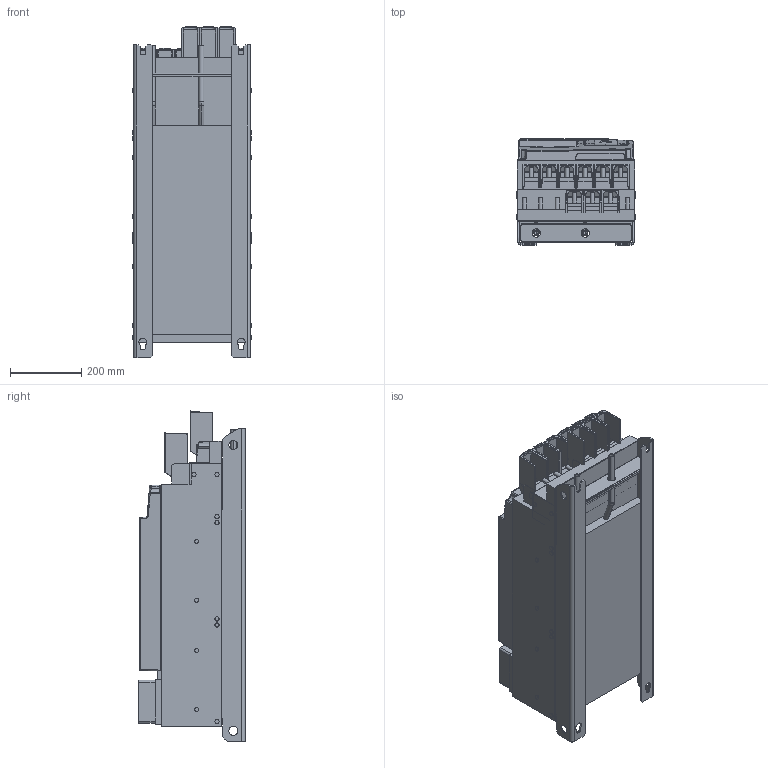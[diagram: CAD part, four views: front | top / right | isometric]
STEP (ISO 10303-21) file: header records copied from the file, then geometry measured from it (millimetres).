
FILE_DESCRIPTION (( 'STEP AP214' ), '1' );
FILE_NAME ('F6-8TW0-P150.STEP', '2021-03-02T07:49:46', ( '' ), ( '' ), 'SwSTEP 2.0', 'SolidWorks 2019', '' );
FILE_SCHEMA (( 'AUTOMOTIVE_DESIGN' ));
Length unit declared in the file: millimetre
Products named in the file (13): 10038044_000_Kundemodell; F6-8TW0-P150; 10040552_000_Kundenmodell; 10047771_000_Kundenmodell; 10059762_000_Kundenmodell mit Geberbuchsen; 10063199_000; 10059765_000; 10063887_000_F6-8 Leistungsteil TW0 (Kundenmodell); 10063898_000; 10063180_000; 10051076_000_Kundenmodell; 10059764_000_Blindabdeckung (Kundenmodell); 10063225_000
Assembly tree (12 placements, depth 4):
  F6-8TW0-P150
    10063887_000_F6-8 Leistungsteil TW0 (Kundenmodell)
      10038044_000_Kundemodell
        10063180_000
      10063898_000
    10040552_000_Kundenmodell
      10047771_000_Kundenmodell
        10063225_000
      10063199_000
    10051076_000_Kundenmodell
      10059764_000_Blindabdeckung (Kundenmodell)
        10059765_000
      10059762_000_Kundenmodell mit Geberbuchsen
Bounding box: 335.5 x 296.9 x 926.37 mm (x, y, z)
Volume: 61969745.7 mm3; surface area: 3009327.3 mm2
Topology: 6 solids, 30 shells, 2739 faces, 7006 edges, 4341 vertices
Faces by surface type: plane 1442, cylinder 773, bspline 219, sphere 154, cone 98, torus 53
Entity records: 88410 total; most frequent: CARTESIAN_POINT 23724, ORIENTED_EDGE 13790, DIRECTION 12778, EDGE_CURVE 6895, VECTOR 4452, LINE 4452, VERTEX_POINT 4338, AXIS2_PLACEMENT_3D 4163
